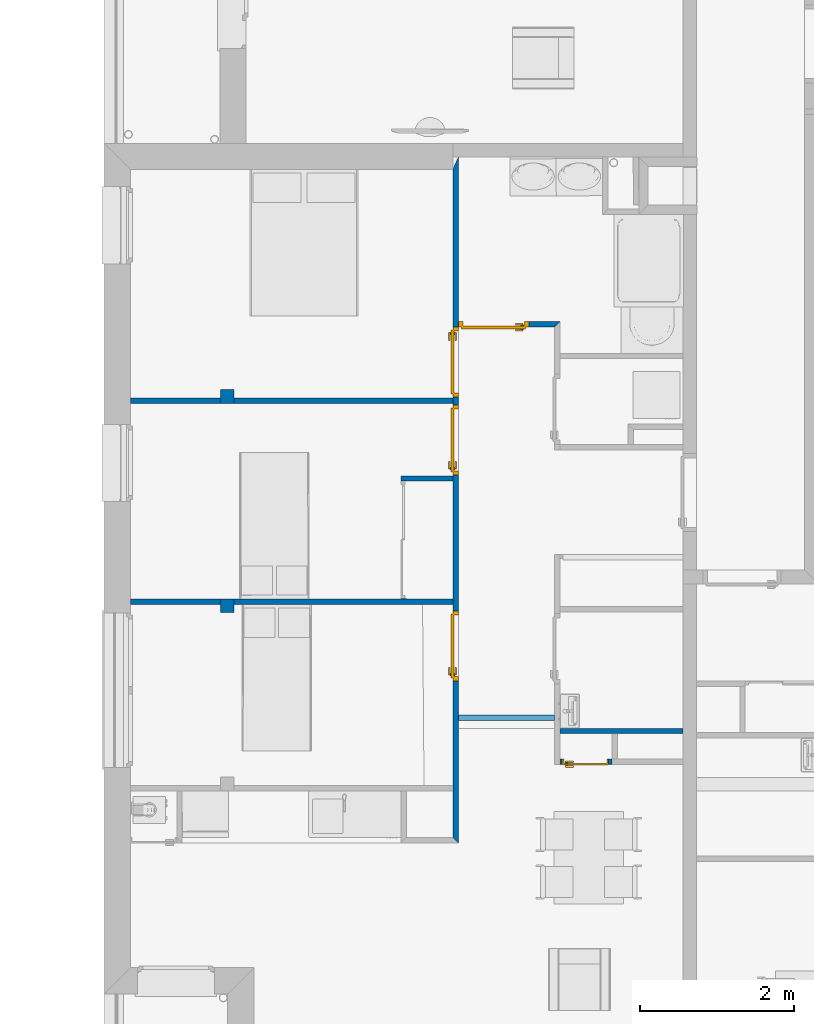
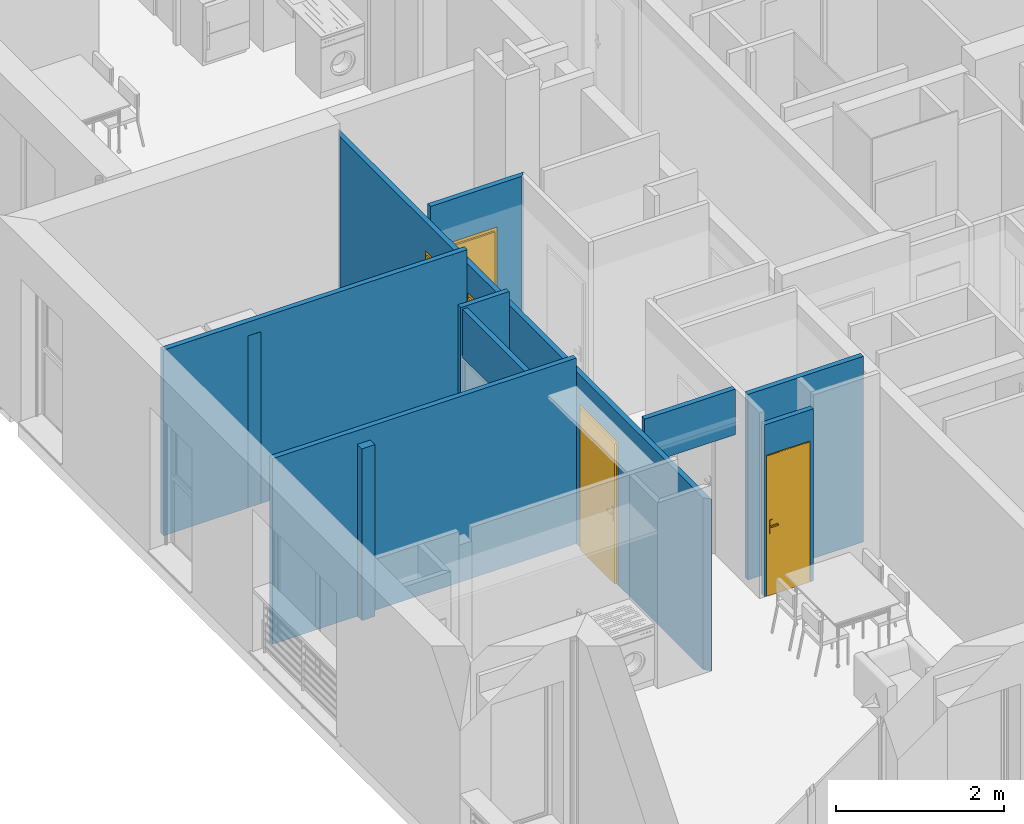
# One storey, part 30 of 171: 11 walls, 5 doors, 7 openings.
"""IFC2X3 building model written with IfcOpenShell, lengths in millimetres."""

import ifcopenshell
import ifcopenshell.guid

model = None  # the IFC model being written
_history = None  # IfcOwnerHistory: only IFC2X3 demands one
_inside = {}  # id of a spatial element -> (the spatial element, [elements in it])
_under = {}  # id of a project, library or spatial element -> (it, [spatial elements below it])
_declared = {}  # id of a project -> (the project, [libraries it declares])
_typed = {}  # id of a type object -> (the type object, [elements of that type])
_made_of = {}  # id of a material, layer set ... -> (it, [elements and type objects made of it])


def new_model(schema):
    """Start an empty IFC model of exactly this schema.

    Asked for "IFC4X3", IfcOpenShell would pick the latest addendum, in which some entities
    have other attributes; the version numbers below select the first issue.
    IFC2X3 requires an IfcOwnerHistory on every rooted entity: one is made here for all.
    """
    global model, _history
    if schema == "IFC4X3":
        model = ifcopenshell.file(schema_version=(4, 3, 0, 0))
    else:
        model = ifcopenshell.file(schema=schema)
    _inside.clear()
    _under.clear()
    _declared.clear()
    _typed.clear()
    _made_of.clear()
    _history = None
    if model.schema == "IFC2X3":
        org = make("IfcOrganization", Name="unknown")
        user = make(
            "IfcPersonAndOrganization",
            ThePerson=make("IfcPerson", FamilyName="unknown"),
            TheOrganization=org,
        )
        app = make(
            "IfcApplication",
            ApplicationDeveloper=org,
            Version="unknown",
            ApplicationFullName="unknown",
            ApplicationIdentifier="unknown",
        )
        _history = make(
            "IfcOwnerHistory",
            OwningUser=user,
            OwningApplication=app,
            ChangeAction="ADDED",
            CreationDate=0,
        )
    return model


def make(cls, **values):
    """One entity of the class cls with the attributes given. An attribute that is None is left unset."""
    return model.create_entity(
        cls, **{name: value for name, value in values.items() if value is not None}
    )


def entity(cls, *values):
    """Any entity or typed value of the class cls, its attributes in the order of the schema. None: left unset."""
    e = model.create_entity(cls)
    for i, value in enumerate(values):
        if value is not None:
            e[i] = value
    return e


def rooted(cls, **values):
    """An entity with a GlobalId (a new one), such as an element, a storey or a relation."""
    return make(cls, GlobalId=ifcopenshell.guid.new(), OwnerHistory=_history, **values)


def si_unit(unit_type, name, prefix=None):
    """IfcSIUnit, for example si_unit("LENGTHUNIT", "METRE", prefix="MILLI")."""
    return make("IfcSIUnit", UnitType=unit_type, Prefix=prefix, Name=name)


def converted_unit(unit_type, name, factor, base, dimensions=None, offset=None):
    """IfcConversionBasedUnit, such as the inch: factor (a typed value) times the base unit."""
    return make(
        "IfcConversionBasedUnit"
        if offset is None
        else "IfcConversionBasedUnitWithOffset",
        ConversionOffset=offset,
        Dimensions=None
        if dimensions is None
        else entity("IfcDimensionalExponents", *dimensions),
        UnitType=unit_type,
        Name=name,
        ConversionFactor=make(
            "IfcMeasureWithUnit", ValueComponent=factor, UnitComponent=base
        ),
    )


def derived_unit(unit_type, elements):
    """IfcDerivedUnit: a product of units, each with its exponent."""
    return make(
        "IfcDerivedUnit",
        Elements=[
            make("IfcDerivedUnitElement", Unit=unit, Exponent=power)
            for unit, power in elements
        ],
        UnitType=unit_type,
    )


def money_unit(currency):
    """IfcMonetaryUnit."""
    return make("IfcMonetaryUnit", Currency=currency)


def assignment(units):
    """IfcUnitAssignment: the units of a project."""
    return None if units is None else make("IfcUnitAssignment", Units=units)


def point(xyz):
    """IfcCartesianPoint."""
    return None if xyz is None else make("IfcCartesianPoint", Coordinates=xyz)


def direction(xyz):
    """IfcDirection."""
    return None if xyz is None else make("IfcDirection", DirectionRatios=xyz)


def frame(location, z_axis=None, x_axis=None):
    """IfcAxis2Placement3D, a coordinate frame: its origin and axes. An axis left out is left unset."""
    return make(
        "IfcAxis2Placement3D",
        Location=point(location),
        Axis=direction(z_axis),
        RefDirection=direction(x_axis),
    )


def frame_2d(location, x_axis=None):
    """IfcAxis2Placement2D, a coordinate frame in the plane: its origin and x axis."""
    return make(
        "IfcAxis2Placement2D", Location=point(location), RefDirection=direction(x_axis)
    )


def origin_with_axes():
    """The frame at (0, 0, 0) with the z axis (0, 0, 1) and the x axis (1, 0, 0) written out."""
    return frame((0.0, 0.0, 0.0), z_axis=(0.0, 0.0, 1.0), x_axis=(1.0, 0.0, 0.0))


def origin_2d_with_axis():
    """The frame at (0, 0) in the plane with the x axis (1, 0) written out."""
    return frame_2d((0.0, 0.0), x_axis=(1.0, 0.0))


def place(relative_to, where):
    """IfcLocalPlacement: puts the frame where relative to a parent placement (None: the world)."""
    return make(
        "IfcLocalPlacement", PlacementRelTo=relative_to, RelativePlacement=where
    )


def context(
    kind, dimensions, precision=None, world=None, true_north=None, identifier=None
):
    """IfcGeometricRepresentationContext, for example the 3D "Model" context."""
    return make(
        "IfcGeometricRepresentationContext",
        ContextIdentifier=identifier,
        ContextType=kind,
        CoordinateSpaceDimension=dimensions,
        Precision=precision,
        WorldCoordinateSystem=world,
        TrueNorth=true_north,
    )


def subcontext(parent, identifier, kind, view, scale=None):
    """IfcGeometricRepresentationSubContext, for example "Body" below "Model"."""
    return make(
        "IfcGeometricRepresentationSubContext",
        ContextIdentifier=identifier,
        ContextType=kind,
        ParentContext=parent,
        TargetScale=scale,
        TargetView=view,
    )


def project(units=None, contexts=None):
    """IfcProject with its units and contexts."""
    return rooted(
        "IfcProject",
        Name="project",
        RepresentationContexts=contexts,
        UnitsInContext=assignment(units),
    )


def spatial(cls, under=None, at=None, **own):
    """A site, building, storey or space (cls), placed at a placement, below another one or the project."""
    s = rooted(cls, ObjectPlacement=at, **own)
    if under is not None:
        _under.setdefault(under.id(), (under, []))[1].append(s)
    return s


def polyline(points):
    """IfcPolyline through the points."""
    return make("IfcPolyline", Points=[point(p) for p in points])


def profile(cls, at=None, kind="AREA", **sizes):
    """A parametric profile (cls). Its sizes go by their IFC names, for example OverallWidth=200.0."""
    return make(cls, ProfileType=kind, Position=at, **sizes)


def rectangle(**sizes):
    """IfcRectangleProfileDef."""
    return profile("IfcRectangleProfileDef", **sizes)


def outline(outer, holes=None, kind="AREA"):
    """IfcArbitraryClosedProfileDef: a profile drawn as a closed curve; with holes, ...WithVoids."""
    if holes is None:
        return make("IfcArbitraryClosedProfileDef", ProfileType=kind, OuterCurve=outer)
    return make(
        "IfcArbitraryProfileDefWithVoids",
        ProfileType=kind,
        OuterCurve=outer,
        InnerCurves=holes,
    )


def extrude(swept, where, along, depth):
    """IfcExtrudedAreaSolid: the profile swept, set in the frame where, extruded along a direction by depth."""
    return make(
        "IfcExtrudedAreaSolid",
        SweptArea=swept,
        Position=where,
        ExtrudedDirection=direction(along),
        Depth=depth,
    )


def faces_of(points, faces, orient=None, outer=None):
    """IfcFace entities. A face is a list of loops; a loop is a list of indices into points, from 0.

    orient and outer hold one flag for each loop. By default every Orientation is true, the
    first loop of a face is its IfcFaceOuterBound and the others are IfcFaceBound.
    """
    made = []
    for i, loops in enumerate(faces):
        bounds = []
        for j, loop in enumerate(loops):
            is_outer = j == 0 if outer is None else outer[i][j]
            bounds.append(
                make(
                    "IfcFaceOuterBound" if is_outer else "IfcFaceBound",
                    Bound=make("IfcPolyLoop", Polygon=[points[k] for k in loop]),
                    Orientation=True if orient is None else orient[i][j],
                )
            )
        made.append(make("IfcFace", Bounds=bounds))
    return made


def faceted_brep(points, faces, orient=None, outer=None, voids=None):
    """IfcFacetedBrep: a solid bounded by flat faces; with voids (closed shells), ...WithVoids."""
    shared = [point(p) for p in points]
    hull = make("IfcClosedShell", CfsFaces=faces_of(shared, faces, orient, outer))
    if voids is None:
        return make("IfcFacetedBrep", Outer=hull)
    return make(
        "IfcFacetedBrepWithVoids",
        Outer=hull,
        Voids=[
            make(cls, CfsFaces=faces_of(shared, fs, o, b)) for cls, fs, o, b in voids
        ],
    )


def shape(context_of_items, identifier, shape_type, items):
    """IfcShapeRepresentation: the items that make up one representation, for example the "Body"."""
    return make(
        "IfcShapeRepresentation",
        ContextOfItems=context_of_items,
        RepresentationIdentifier=identifier,
        RepresentationType=shape_type,
        Items=items,
    )


def source(mapping_origin, context_of_items, identifier, shape_type, items):
    """IfcRepresentationMap: a shape defined once, which mapped items show again and again."""
    return make(
        "IfcRepresentationMap",
        MappingOrigin=mapping_origin,
        MappedRepresentation=shape(context_of_items, identifier, shape_type, items),
    )


def transform(
    local_origin,
    x_axis=None,
    y_axis=None,
    z_axis=None,
    scale=None,
    scale2=None,
    scale3=None,
    uniform=True,
):
    """IfcCartesianTransformationOperator3D, or its non-uniform kind. x_axis, y_axis, z_axis: its Axis1, 2, 3."""
    if uniform:
        return make(
            "IfcCartesianTransformationOperator3D",
            Axis1=direction(x_axis),
            Axis2=direction(y_axis),
            LocalOrigin=point(local_origin),
            Scale=scale,
            Axis3=direction(z_axis),
        )
    return make(
        "IfcCartesianTransformationOperator3DnonUniform",
        Axis1=direction(x_axis),
        Axis2=direction(y_axis),
        LocalOrigin=point(local_origin),
        Scale=scale,
        Axis3=direction(z_axis),
        Scale2=scale2,
        Scale3=scale3,
    )


def mapped(mapping_source, mapping_target):
    """IfcMappedItem: shows the shape of a source again, moved by a transform."""
    return make(
        "IfcMappedItem", MappingSource=mapping_source, MappingTarget=mapping_target
    )


def material(Name=None, Category=None):
    """IfcMaterial."""
    return make("IfcMaterial", Name=Name, Category=Category)


def layer(
    of_material, thickness, ventilated=None, Name=None, Category=None, Priority=None
):
    """IfcMaterialLayer: one layer of a wall or slab, of a material (None: an air gap)."""
    return make(
        "IfcMaterialLayer",
        Material=of_material,
        LayerThickness=thickness,
        IsVentilated=ventilated,
        Name=Name,
        Category=Category,
        Priority=Priority,
    )


def layer_set(layers, Name=None):
    """IfcMaterialLayerSet."""
    return make("IfcMaterialLayerSet", MaterialLayers=layers, LayerSetName=Name)


def layer_usage(for_layer_set, set_direction, sense, offset, extent=None):
    """IfcMaterialLayerSetUsage: how a layer set lies in its element."""
    return make(
        "IfcMaterialLayerSetUsage",
        ForLayerSet=for_layer_set,
        LayerSetDirection=set_direction,
        DirectionSense=sense,
        OffsetFromReferenceLine=offset,
        ReferenceExtent=extent,
    )


def made_of(thing, what):
    """Note that an element or type object is made of a material, layer set ...; save() writes the relation."""
    if what is not None:
        _made_of.setdefault(what.id(), (what, []))[1].append(thing)
    return thing


def type_object(cls, material=None, **own):
    """A type object (cls), such as IfcWallType, which elements share."""
    return made_of(rooted(cls, **own), material)


def element(
    cls,
    number,
    at=None,
    inside=None,
    cuts=None,
    type_object=None,
    material=None,
    context=None,
    identifier="Body",
    shape_type=None,
    held_by="IfcProductDefinitionShape",
    body=None,
    shapes=None,
    **own,
):
    """One element of the class cls, such as IfcWall. Its Tag is "e" and its number.

    at: its placement. inside: the storey or other place that contains it. cuts: it is an
    opening in that element (IfcRelVoidsElement). A single representation is given by context,
    identifier, shape_type and body (its items); several are given by shapes. held_by: the class
    of the entity that holds the representations. save() writes the other relations.
    """
    e = rooted(cls, Tag="e%d" % number, ObjectPlacement=at, **own)
    if body is not None:
        shapes = [shape(context, identifier, shape_type, body)]
    if shapes is not None:
        e.Representation = make(held_by, Representations=shapes)
    if inside is not None:
        _inside.setdefault(inside.id(), (inside, []))[1].append(e)
    if cuts is not None:
        rooted(
            "IfcRelVoidsElement", RelatingBuildingElement=cuts, RelatedOpeningElement=e
        )
    if type_object is not None:
        _typed.setdefault(type_object.id(), (type_object, []))[1].append(e)
    return made_of(e, material)


def fill(opening, filler):
    """IfcRelFillsElement: the door or window that sits in an opening."""
    return rooted(
        "IfcRelFillsElement",
        RelatingOpeningElement=opening,
        RelatedBuildingElement=filler,
    )


def aggregate(whole, parts):
    """IfcRelAggregates: a whole, such as a stair, and the parts it consists of."""
    return rooted("IfcRelAggregates", RelatingObject=whole, RelatedObjects=parts)


def save(model, path):
    """Write the relations noted so far, then the file.

    IfcRelAggregates (storeys below a building ...), IfcRelContainedInSpatialStructure (elements
    in a storey), IfcRelDefinesByType, IfcRelAssociatesMaterial and IfcRelDeclares: one each for
    every whole, place, type object, material and project.
    """
    for whole, parts in _under.values():
        aggregate(whole, parts)
    for where, things in _inside.values():
        rooted(
            "IfcRelContainedInSpatialStructure",
            RelatedElements=things,
            RelatingStructure=where,
        )
    for kind, things in _typed.values():
        rooted("IfcRelDefinesByType", RelatedObjects=things, RelatingType=kind)
    for what, things in _made_of.values():
        rooted("IfcRelAssociatesMaterial", RelatedObjects=things, RelatingMaterial=what)
    for by, libraries in _declared.values():
        rooted("IfcRelDeclares", RelatingContext=by, RelatedDefinitions=libraries)
    model.write(path)


model = new_model("IFC2X3")

# Units and contexts
model_context = context("Model", 3, precision=0.01, world=origin_with_axes(), true_north=direction((0.0, 1.0)))
body_context = subcontext(model_context, "Body", "Model", "MODEL_VIEW")
ifc_project = project(units=[si_unit("LENGTHUNIT", "METRE", prefix="MILLI"), si_unit("AREAUNIT", "SQUARE_METRE"), si_unit("VOLUMEUNIT", "CUBIC_METRE"), converted_unit("PLANEANGLEUNIT", "DEGREE", entity("IfcPlaneAngleMeasure", 0.0174532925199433), si_unit("PLANEANGLEUNIT", "RADIAN"), dimensions=[0, 0, 0, 0, 0, 0, 0]), money_unit("USD"), converted_unit("TIMEUNIT", "Year", entity("IfcTimeMeasure", 31557600.0), si_unit("TIMEUNIT", "SECOND"), dimensions=[0, 0, 1, 0, 0, 0, 0]), si_unit("MASSUNIT", "GRAM", prefix="KILO"), si_unit("THERMODYNAMICTEMPERATUREUNIT", "DEGREE_CELSIUS"), si_unit("LUMINOUSINTENSITYUNIT", "LUMEN"), si_unit("ENERGYUNIT", "JOULE", prefix="MEGA"), derived_unit("THERMALCONDUCTANCEUNIT", [(si_unit("POWERUNIT", "WATT"), 1), (si_unit("LENGTHUNIT", "METRE"), -1), (si_unit("THERMODYNAMICTEMPERATUREUNIT", "KELVIN"), -1)]), derived_unit("SPECIFICHEATCAPACITYUNIT", [(si_unit("ENERGYUNIT", "JOULE"), 1), (si_unit("MASSUNIT", "GRAM", prefix="KILO"), -1), (si_unit("THERMODYNAMICTEMPERATUREUNIT", "KELVIN"), -1)]), derived_unit("MASSDENSITYUNIT", [(si_unit("MASSUNIT", "GRAM", prefix="KILO"), 1), (si_unit("VOLUMEUNIT", "CUBIC_METRE"), -1)])], contexts=[model_context])

# Site, building, storey
site_placement = place(None, origin_with_axes())
site = spatial("IfcSite", under=ifc_project, at=site_placement, Name="Site", CompositionType="ELEMENT")
building_placement = place(site_placement, origin_with_axes())
building = spatial("IfcBuilding", under=site, at=building_placement, Name="Bâtiment", CompositionType="ELEMENT")
storey_placement = place(building_placement, frame((0.0, 0.0, 3000.0), z_axis=(0.0, 0.0, 1.0), x_axis=(1.0, 0.0, 0.0)))
storey = spatial("IfcBuildingStorey", under=building, at=storey_placement, Name="rdc", CompositionType="ELEMENT", Elevation=3000.0)

# Wall
ifc_material_1 = material(Name="Hachure solide 268963992")
ifc_layer_1 = layer(ifc_material_1, 70.0, ventilated="UNKNOWN")
ifc_layer_set_1 = layer_set([ifc_layer_1], Name="Cloison 70 0826278243")
ifc_layer_usage_1 = layer_usage(ifc_layer_set_1, "AXIS2", "NEGATIVE", 70.0)
wall_type_1 = type_object("IfcWallType", Name="Cloison 70 0826278243 70", PredefinedType="NOTDEFINED")
wall_1_placement = place(storey_placement, frame((2224312.347712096, -651598.383431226, 0.0), z_axis=(0.0, 0.0, 1.0), x_axis=(-1.0, 0.0, 0.0)))
element("IfcWallStandardCase", 1, at=wall_1_placement, inside=storey, type_object=wall_type_1, material=ifc_layer_usage_1, Name="Mur-149", context=body_context, shape_type="SweptSolid", body=[
    extrude(outline(polyline([(179.9992271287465, 0.0), (1769.996590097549, 0.0), (1769.996590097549, 69.99999999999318), (179.999566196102, 69.99999999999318), (179.9992271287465, 0.0)])), origin_with_axes(), (0.0, 0.0, 1.0), 2700.0),
])

# Wall, opening
ifc_layer_usage_2 = layer_usage(ifc_layer_set_1, "AXIS2", "NEGATIVE", 70.0)
wall_2_placement = place(storey_placement, frame((2220482.351156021, -648435.5587383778, 0.0), z_axis=(0.0, 0.0, 1.0), x_axis=(-1.073144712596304e-07, -0.9999999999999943, 0.0)))
wall_2 = element("IfcWallStandardCase", 2, at=wall_2_placement, inside=storey, type_object=wall_type_1, material=ifc_layer_usage_2, Name="Mur-149", context=body_context, shape_type="SweptSolid", body=[
    extrude(outline(polyline([(0.0, 0.0), (1485.227886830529, 0.0), (1485.227879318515, 70.00000000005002), (0.0, 70.00000000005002), (0.0, 0.0)])), origin_with_axes(), (0.0, 0.0, 1.0), 2700.0),
])
opening_1_placement = place(wall_2_placement, frame((719.9835981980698, 2.273736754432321e-10, 0.0), z_axis=(0.0, 0.0, 1.0), x_axis=(1.0, 0.0, 0.0)))
element("IfcOpeningElement", 3, at=opening_1_placement, cuts=wall_2, Name="Por-321", context=body_context, shape_type="SweptSolid", body=[
    extrude(rectangle(XDim=1519.967196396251, YDim=2000.0, at=origin_2d_with_axis()), frame((0.0, 0.0, 1000.0), z_axis=(0.0, 1.0, 0.0), x_axis=(1.0, 0.0, 0.0)), (0.0, 0.0, -1.0), 70.0),
    extrude(rectangle(XDim=1519.967196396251, YDim=2000.0, at=origin_2d_with_axis()), frame((0.0, 0.0, 1000.0), z_axis=(0.0, -1.0, 0.0), x_axis=(1.0, 0.0, 0.0)), (0.0, 0.0, -1.0), 70.0),
])

# Walls
ifc_layer_usage_3 = layer_usage(ifc_layer_set_1, "AXIS2", "NEGATIVE", 70.0)
wall_3_placement = place(storey_placement, frame((2221152.351167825, -647320.7866252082, 0.0), z_axis=(0.0, 0.0, 1.0), x_axis=(-1.0, 0.0, 0.0)))
element("IfcWallStandardCase", 4, at=wall_3_placement, inside=storey, type_object=wall_type_1, material=ifc_layer_usage_3, Name="Mur-149", context=body_context, shape_type="SweptSolid", body=[
    extrude(outline(polyline([(0.0, 0.0), (4178.117824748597, 0.0), (4178.117824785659, 69.99999999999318), (0.0, 69.99999999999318), (0.0, 0.0)])), origin_with_axes(), (0.0, 0.0, 1.0), 2700.0),
])
ifc_layer_usage_4 = layer_usage(ifc_layer_set_1, "AXIS2", "NEGATIVE", 70.0)
wall_4_placement = place(storey_placement, frame((2221152.351167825, -648325.5587458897, 0.0), z_axis=(0.0, 0.0, 1.0), x_axis=(-1.0, 0.0, 0.0)))
element("IfcWallStandardCase", 5, at=wall_4_placement, inside=storey, type_object=wall_type_1, material=ifc_layer_usage_4, Name="Mur-149", context=body_context, shape_type="SweptSolid", body=[
    extrude(outline(polyline([(0.0, 0.0), (669.9999999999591, 0.0), (669.9999999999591, 69.99999999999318), (0.0, 69.99999999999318), (0.0, 0.0)])), origin_with_axes(), (0.0, 0.0, 1.0), 2700.0),
])

# Wall, opening, door
ifc_layer_usage_5 = layer_usage(ifc_layer_set_1, "AXIS2", "NEGATIVE", 70.0)
wall_5_placement = place(storey_placement, frame((2222472.351167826, -646327.0248240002, 0.0), z_axis=(0.0, 0.0, 1.0), x_axis=(-1.0, 0.0, 0.0)))
wall_5 = element("IfcWallStandardCase", 6, at=wall_5_placement, inside=storey, type_object=wall_type_1, material=ifc_layer_usage_5, Name="Mur-149", context=body_context, shape_type="SweptSolid", body=[
    extrude(outline(polyline([(-70.00000000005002, 0.0), (1250.0, 0.0), (1250.0, 69.99999999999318), (-1.02037347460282e-05, 69.99999999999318), (-70.00000000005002, 0.0)])), origin_with_axes(), (0.0, 0.0, 1.0), 2700.0),
])
opening_2_placement = place(wall_5_placement, frame((790.6535849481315, 0.0, 0.0), z_axis=(0.0, 0.0, 1.0), x_axis=(1.0, 0.0, 0.0)))
opening_2 = element("IfcOpeningElement", 7, at=opening_2_placement, cuts=wall_5, Name="Por-280", context=body_context, shape_type="SweptSolid", body=[
    extrude(rectangle(XDim=909.9999999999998, YDim=2080.0, at=origin_2d_with_axis()), frame((0.0, -69.99999999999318, 1040.0), z_axis=(0.0, 1.0, 0.0), x_axis=(1.0, 0.0, 0.0)), (0.0, 0.0, 1.0), 140.0),
])
door_style = type_object("IfcDoorStyle", Name="Porte_1v", ConstructionType="NOTDEFINED", OperationType="NOTDEFINED", ParameterTakesPrecedence=False, Sizeable=False)
shared_shape_1 = source(origin_with_axes(), body_context, "Body", "Brep", [
    faceted_brep([(454.9999999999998, 0.0, 0.0), (414.9999999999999, 0.0, 0.0), (414.9999999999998, 0.0, 2040.0), (-414.9999999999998, 0.0, 2040.0), (-414.9999999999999, 0.0, 0.0), (-454.9999999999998, 0.0, 0.0), (-454.9999999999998, 0.0, 2080.0), (454.9999999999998, 0.0, 2080.0), (454.9999999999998, -69.99999999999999, 0.0), (399.9999999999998, -69.99999999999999, 0.0), (399.9999999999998, -15.0, 0.0), (414.9999999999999, -15.0, 0.0), (414.9999999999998, -15.0, 2040.0), (-414.9999999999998, -15.0, 2040.0), (-414.9999999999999, -15.0, 0.0), (-399.9999999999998, -15.0, 0.0), (-399.9999999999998, -69.99999999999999, 0.0), (-454.9999999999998, -69.99999999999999, 0.0), (-454.9999999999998, -69.99999999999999, 2080.0), (454.9999999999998, -69.99999999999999, 2080.0), (-399.9999999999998, -69.99999999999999, 2025.0), (399.9999999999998, -69.99999999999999, 2025.0), (399.9999999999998, -15.0, 2025.0), (-399.9999999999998, -15.0, 2025.0)], [[[0, 1, 2, 3, 4, 5, 6, 7]], [[0, 8, 9, 10, 11, 1]], [[1, 11, 12, 2]], [[2, 12, 13, 3]], [[3, 13, 14, 4]], [[5, 4, 14, 15, 16, 17]], [[18, 6, 5, 17]], [[19, 7, 6, 18]], [[8, 0, 7, 19]], [[9, 8, 19, 18, 17, 16, 20, 21]], [[10, 9, 21, 22]], [[11, 10, 22, 23, 15, 14, 13, 12]], [[23, 20, 16, 15]], [[22, 21, 20, 23]]]),
    faceted_brep([(-349.9999999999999, -15.0, 900.0), (-389.9999999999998, -15.0, 900.0), (-389.9999999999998, -15.0, 1100.0), (-349.9999999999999, -15.0, 1100.0), (-349.9999999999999, -24.99999999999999, 900.0), (-389.9999999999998, -24.99999999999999, 900.0), (-389.9999999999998, -24.99999999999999, 1100.0), (-349.9999999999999, -24.99999999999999, 1100.0)], [[[0, 1, 2, 3]], [[1, 0, 4, 5]], [[2, 1, 5, 6]], [[3, 2, 6, 7]], [[0, 3, 7, 4]], [[5, 4, 7, 6]]]),
    faceted_brep([(-279.9999999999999, -24.99999999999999, 1000.0), (-379.9999999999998, -24.99999999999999, 1000.0), (-379.9999999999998, -24.99999999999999, 1020.0), (-279.9999999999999, -24.99999999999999, 1020.0), (-279.9999999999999, -44.99999999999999, 1000.0), (-379.9999999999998, -44.99999999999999, 1000.0), (-379.9999999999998, -44.99999999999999, 1020.0), (-279.9999999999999, -44.99999999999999, 1020.0)], [[[0, 1, 2, 3]], [[1, 0, 4, 5]], [[2, 1, 5, 6]], [[3, 2, 6, 7]], [[0, 3, 7, 4]], [[5, 4, 7, 6]]]),
    faceted_brep([(-349.9999999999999, 34.99999999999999, 900.0), (-389.9999999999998, 34.99999999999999, 900.0), (-389.9999999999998, 34.99999999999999, 1100.0), (-349.9999999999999, 34.99999999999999, 1100.0), (-349.9999999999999, 24.99999999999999, 900.0), (-389.9999999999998, 24.99999999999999, 900.0), (-389.9999999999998, 24.99999999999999, 1100.0), (-349.9999999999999, 24.99999999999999, 1100.0)], [[[0, 1, 2, 3]], [[1, 0, 4, 5]], [[2, 1, 5, 6]], [[3, 2, 6, 7]], [[0, 3, 7, 4]], [[5, 4, 7, 6]]]),
    faceted_brep([(-279.9999999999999, 54.99999999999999, 1000.0), (-379.9999999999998, 54.99999999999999, 1000.0), (-379.9999999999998, 54.99999999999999, 1020.0), (-279.9999999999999, 54.99999999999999, 1020.0), (-279.9999999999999, 34.99999999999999, 1000.0), (-379.9999999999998, 34.99999999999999, 1000.0), (-379.9999999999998, 34.99999999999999, 1020.0), (-279.9999999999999, 34.99999999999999, 1020.0)], [[[0, 1, 2, 3]], [[1, 0, 4, 5]], [[2, 1, 5, 6]], [[3, 2, 6, 7]], [[0, 3, 7, 4]], [[5, 4, 7, 6]]]),
    faceted_brep([(-414.9999999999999, 24.99999999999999, 0.0), (414.9999999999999, 24.99999999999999, 0.0), (414.9999999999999, -15.0, 0.0), (-414.9999999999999, -15.0, 0.0), (-414.9999999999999, 24.99999999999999, 2040.0), (414.9999999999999, 24.99999999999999, 2040.0), (414.9999999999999, -15.0, 2040.0), (-414.9999999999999, -15.0, 2040.0)], [[[0, 1, 2, 3]], [[0, 4, 5, 1]], [[1, 5, 6, 2]], [[3, 2, 6, 7]], [[4, 0, 3, 7]], [[5, 4, 7, 6]]]),
])
door_1_placement = place(opening_2_placement, frame((-415.000000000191, 0.0, 0.0), z_axis=(0.0, 0.0, 1.0), x_axis=(1.0, 0.0, 0.0)))
door_1 = element("IfcDoor", 8, at=door_1_placement, inside=storey, type_object=door_style, Name="Por-280", OverallHeight=2040.0, OverallWidth=830.0, context=body_context, shape_type="MappedRepresentation", body=[
    mapped(shared_shape_1, transform((414.9999999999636, 69.99999999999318, 0.0))),
])
fill(opening_2, door_1)

# Wall
ifc_layer_usage_6 = layer_usage(ifc_layer_set_1, "AXIS2", "NEGATIVE", 70.0)
wall_6_placement = place(storey_placement, frame((2221152.351167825, -649920.7866252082, 0.0), z_axis=(0.0, 0.0, 1.0), x_axis=(-1.0, 0.0, 0.0)))
element("IfcWallStandardCase", 9, at=wall_6_placement, inside=storey, type_object=wall_type_1, material=ifc_layer_usage_6, Name="Mur-149", context=body_context, shape_type="SweptSolid", body=[
    extrude(outline(polyline([(0.0, 0.0), (4178.117826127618, 0.0), (4178.11782616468, 69.99999999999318), (0.0, 69.99999999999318), (0.0, 0.0)])), origin_with_axes(), (0.0, 0.0, 1.0), 2700.0),
])

# Wall, opening
ifc_layer_usage_7 = layer_usage(ifc_layer_set_1, "AXIS2", "NEGATIVE", 70.0)
wall_7_placement = place(storey_placement, frame((2222472.351121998, -651428.3834443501, 0.0), z_axis=(0.0, 0.0, 1.0), x_axis=(-1.0, 9.942334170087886e-09, 0.0)))
wall_7 = element("IfcWallStandardCase", 10, at=wall_7_placement, inside=storey, type_object=wall_type_1, material=ifc_layer_usage_7, Name="Mur-149", context=body_context, shape_type="SweptSolid", body=[
    extrude(outline(polyline([(0.0, 0.0), (1249.999954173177, 0.0), (1249.999953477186, 69.99999999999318), (-6.959908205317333e-07, 69.99999999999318), (0.0, 0.0)])), origin_with_axes(), (0.0, 0.0, 1.0), 2700.0),
])
opening_3_placement = place(wall_7_placement, frame((624.9999778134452, 0.0, 0.0), z_axis=(0.0, 0.0, 1.0), x_axis=(1.0, 0.0, 0.0)))
element("IfcOpeningElement", 11, at=opening_3_placement, cuts=wall_7, Name="Por-282", context=body_context, shape_type="SweptSolid", body=[
    extrude(rectangle(XDim=1250.000026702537, YDim=2040.0, at=origin_2d_with_axis()), frame((-6.959908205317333e-07, 70.0000062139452, 1020.0), z_axis=(9.942334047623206e-09, -1.0, 0.0), x_axis=(1.0, 9.942334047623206e-09, 0.0)), (0.0, 0.0, -1.0), 70.0),
    extrude(rectangle(XDim=1250.000026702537, YDim=2040.0, at=origin_2d_with_axis()), frame((-6.959908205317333e-07, 70.0000062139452, 1020.0), z_axis=(-9.942334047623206e-09, 1.0, 0.0), x_axis=(1.0, 9.942334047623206e-09, 0.0)), (0.0, 0.0, -1.0), 70.0),
])

# Wall, opening, door
ifc_layer_usage_8 = layer_usage(ifc_layer_set_1, "AXIS2", "NEGATIVE", 70.0)
wall_8_placement = place(storey_placement, frame((2223215.674325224, -651998.3834312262, 0.0), z_axis=(0.0, 0.0, 1.0), x_axis=(-1.0, 0.0, 0.0)))
wall_8 = element("IfcWallStandardCase", 12, at=wall_8_placement, inside=storey, type_object=wall_type_1, material=ifc_layer_usage_8, Name="Mur-149", context=body_context, shape_type="SweptSolid", body=[
    extrude(outline(polyline([(0.0, 0.0), (673.3232032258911, 0.0), (673.3232032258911, 69.99999999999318), (0.0, 69.99999999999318), (0.0, 0.0)])), origin_with_axes(), (0.0, 0.0, 1.0), 2500.0),
])
opening_4_placement = place(wall_8_placement, frame((345.8196076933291, 0.0, 0.0), z_axis=(0.0, 0.0, 1.0), x_axis=(1.0, 0.0, 0.0)))
opening_4 = element("IfcOpeningElement", 13, at=opening_4_placement, cuts=wall_8, Name="Por-274", context=body_context, shape_type="SweptSolid", body=[
    extrude(rectangle(XDim=599.9999999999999, YDim=2050.0, at=origin_2d_with_axis()), frame((0.0, -69.99999999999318, 1025.0), z_axis=(0.0, -1.0, 0.0), x_axis=(-1.0, 0.0, 0.0)), (0.0, 0.0, -1.0), 140.0),
])
shared_shape_2 = source(origin_with_axes(), body_context, "Body", "Brep", [
    faceted_brep([(-300.0, 0.0, 0.0), (-300.0, 0.0, 2050.0), (300.0, 0.0, 2050.0), (300.0, 0.0, 0.0), (290.0, 0.0, 0.0), (290.0, 0.0, 2040.0), (-290.0, 0.0, 2040.0), (-290.0, 0.0, 0.0), (-300.0, -70.0, 0.0), (-300.0, -70.0, 2050.0), (300.0, -70.0, 2050.0), (300.0, -70.0, 0.0), (279.9999999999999, -70.0, 0.0), (279.9999999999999, -15.0, 0.0), (290.0, -15.0, 0.0), (290.0, -15.0, 2040.0), (-290.0, -15.0, 2040.0), (-290.0, -15.0, 0.0), (-279.9999999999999, -15.0, 0.0), (-279.9999999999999, -70.0, 0.0), (-279.9999999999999, -70.0, 2030.0), (279.9999999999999, -70.0, 2030.0), (279.9999999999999, -15.0, 2030.0), (-279.9999999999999, -15.0, 2030.0)], [[[0, 1, 2, 3, 4, 5, 6, 7]], [[8, 9, 1, 0]], [[9, 10, 2, 1]], [[10, 11, 3, 2]], [[3, 11, 12, 13, 14, 4]], [[5, 4, 14, 15]], [[6, 5, 15, 16]], [[7, 6, 16, 17]], [[0, 7, 17, 18, 19, 8]], [[19, 20, 21, 12, 11, 10, 9, 8]], [[22, 13, 12, 21]], [[17, 16, 15, 14, 13, 22, 23, 18]], [[18, 23, 20, 19]], [[23, 22, 21, 20]]]),
    faceted_brep([(224.9999999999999, -15.0, 900.0), (224.9999999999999, -15.0, 1100.0), (264.9999999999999, -15.0, 1100.0), (264.9999999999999, -15.0, 900.0), (224.9999999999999, -25.0, 900.0), (224.9999999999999, -25.0, 1100.0), (264.9999999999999, -25.0, 1100.0), (264.9999999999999, -25.0, 900.0)], [[[0, 1, 2, 3]], [[0, 4, 5, 1]], [[1, 5, 6, 2]], [[2, 6, 7, 3]], [[3, 7, 4, 0]], [[7, 6, 5, 4]]]),
    faceted_brep([(154.9999999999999, -25.0, 1000.0), (154.9999999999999, -25.0, 1020.0), (254.9999999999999, -25.0, 1020.0), (254.9999999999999, -25.0, 1000.0), (154.9999999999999, -45.0, 1000.0), (154.9999999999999, -45.0, 1020.0), (254.9999999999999, -45.0, 1020.0), (254.9999999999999, -45.0, 1000.0)], [[[0, 1, 2, 3]], [[0, 4, 5, 1]], [[1, 5, 6, 2]], [[2, 6, 7, 3]], [[3, 7, 4, 0]], [[7, 6, 5, 4]]]),
    faceted_brep([(224.9999999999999, 15.0, 900.0), (224.9999999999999, 15.0, 1100.0), (264.9999999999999, 15.0, 1100.0), (264.9999999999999, 15.0, 900.0), (224.9999999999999, 5.000000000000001, 900.0), (224.9999999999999, 5.000000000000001, 1100.0), (264.9999999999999, 5.000000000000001, 1100.0), (264.9999999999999, 5.000000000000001, 900.0)], [[[0, 1, 2, 3]], [[0, 4, 5, 1]], [[1, 5, 6, 2]], [[2, 6, 7, 3]], [[3, 7, 4, 0]], [[7, 6, 5, 4]]]),
    faceted_brep([(154.9999999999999, 35.0, 1000.0), (154.9999999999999, 35.0, 1020.0), (254.9999999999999, 35.0, 1020.0), (254.9999999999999, 35.0, 1000.0), (154.9999999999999, 15.0, 1000.0), (154.9999999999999, 15.0, 1020.0), (254.9999999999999, 15.0, 1020.0), (254.9999999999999, 15.0, 1000.0)], [[[0, 1, 2, 3]], [[0, 4, 5, 1]], [[1, 5, 6, 2]], [[2, 6, 7, 3]], [[3, 7, 4, 0]], [[7, 6, 5, 4]]]),
    faceted_brep([(290.0, 5.000000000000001, 0.0), (290.0, -15.0, 0.0), (-290.0, -15.0, 0.0), (-290.0, 5.000000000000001, 0.0), (290.0, 5.000000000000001, 2040.0), (290.0, -15.0, 2040.0), (-290.0, -15.0, 2040.0), (-290.0, 5.000000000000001, 2040.0)], [[[0, 1, 2, 3]], [[4, 5, 1, 0]], [[1, 5, 6, 2]], [[3, 2, 6, 7]], [[0, 3, 7, 4]], [[7, 6, 5, 4]]]),
])
door_2_placement = place(opening_4_placement, frame((-290.000000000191, 0.0, 0.0), z_axis=(0.0, 0.0, 1.0), x_axis=(1.0, 0.0, 0.0)))
door_2 = element("IfcDoor", 14, at=door_2_placement, inside=storey, type_object=door_style, Name="Por-274", OverallHeight=2040.0, OverallWidth=580.0, context=body_context, shape_type="MappedRepresentation", body=[
    mapped(shared_shape_2, transform((289.9999999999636, 69.99999999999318, 0.0))),
])
fill(opening_4, door_2)

# Wall, openings, doors
ifc_layer_usage_9 = layer_usage(ifc_layer_set_1, "AXIS2", "NEGATIVE", 70.0)
wall_9_placement = place(storey_placement, frame((2221152.351167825, -644016.3764661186, 0.0), z_axis=(0.0, 0.0, 1.0), x_axis=(0.0, -1.0, 0.0)))
wall_9 = element("IfcWallStandardCase", 15, at=wall_9_placement, inside=storey, type_object=wall_type_1, material=ifc_layer_usage_9, Name="Mur-149", context=body_context, shape_type="SweptSolid", body=[
    extrude(outline(polyline([(339.9999999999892, 0.0), (8996.58341993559, 0.0), (9066.583419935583, 70.00000000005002), (179.9999986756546, 70.00000000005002), (339.9999999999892, 0.0)])), origin_with_axes(), (0.0, 0.0, 1.0), 2500.0),
])
opening_5_placement = place(wall_9_placement, frame((3844.526334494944, 1.13686837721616e-10, 0.0), z_axis=(0.0, 0.0, 1.0), x_axis=(1.0, 0.0, 0.0)))
opening_5 = element("IfcOpeningElement", 16, at=opening_5_placement, cuts=wall_9, Name="Por-279", context=body_context, shape_type="SweptSolid", body=[
    extrude(rectangle(XDim=910.0, YDim=2080.0, at=origin_2d_with_axis()), frame((0.0, 70.00000000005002, 1040.0), z_axis=(0.0, -1.0, 0.0), x_axis=(-1.0, 0.0, 0.0)), (0.0, 0.0, 1.0), 140.0),
])
opening_6_placement = place(wall_9_placement, frame((6513.65574901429, 1.13686837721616e-10, 0.0), z_axis=(0.0, 0.0, 1.0), x_axis=(1.0, 0.0, 0.0)))
opening_6 = element("IfcOpeningElement", 17, at=opening_6_placement, cuts=wall_9, Name="Por-281", context=body_context, shape_type="SweptSolid", body=[
    extrude(rectangle(XDim=910.0, YDim=2080.0, at=origin_2d_with_axis()), frame((0.0, 70.00000000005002, 1040.0), z_axis=(0.0, -1.0, 0.0), x_axis=(-1.0, 0.0, 0.0)), (0.0, 0.0, 1.0), 140.0),
])
opening_7_placement = place(wall_9_placement, frame((2835.648357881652, 1.13686837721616e-10, 0.0), z_axis=(0.0, 0.0, 1.0), x_axis=(1.0, 0.0, 0.0)))
opening_7 = element("IfcOpeningElement", 18, at=opening_7_placement, cuts=wall_9, Name="Por-278", context=body_context, shape_type="SweptSolid", body=[
    extrude(rectangle(XDim=910.0, YDim=2080.0, at=origin_2d_with_axis()), frame((0.0, 70.00000000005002, 1040.0), z_axis=(0.0, 1.0, 0.0), x_axis=(1.0, 0.0, 0.0)), (0.0, 0.0, -1.0), 140.0),
])
shared_shape_3 = source(origin_with_axes(), body_context, "Body", "Brep", [
    faceted_brep([(455.0, 0.0, 0.0), (415.0000000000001, 0.0, 0.0), (415.0000000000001, 0.0, 2040.0), (-415.0000000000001, 0.0, 2040.0), (-415.0000000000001, 0.0, 0.0), (-455.0, 0.0, 0.0), (-455.0, 0.0, 2080.0), (455.0, 0.0, 2080.0), (455.0, -70.0, 0.0), (400.0, -70.0, 0.0), (400.0, -15.0, 0.0), (415.0000000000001, -15.0, 0.0), (415.0000000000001, -15.0, 2040.0), (-415.0000000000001, -15.0, 2040.0), (-415.0000000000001, -15.0, 0.0), (-400.0, -15.0, 0.0), (-400.0, -70.0, 0.0), (-455.0, -70.0, 0.0), (-455.0, -70.0, 2080.0), (455.0, -70.0, 2080.0), (-400.0, -70.0, 2025.0), (400.0, -70.0, 2025.0), (400.0, -15.0, 2025.0), (-400.0, -15.0, 2025.0)], [[[0, 1, 2, 3, 4, 5, 6, 7]], [[0, 8, 9, 10, 11, 1]], [[1, 11, 12, 2]], [[2, 12, 13, 3]], [[3, 13, 14, 4]], [[5, 4, 14, 15, 16, 17]], [[18, 6, 5, 17]], [[19, 7, 6, 18]], [[8, 0, 7, 19]], [[9, 8, 19, 18, 17, 16, 20, 21]], [[10, 9, 21, 22]], [[11, 10, 22, 23, 15, 14, 13, 12]], [[23, 20, 16, 15]], [[22, 21, 20, 23]]]),
    faceted_brep([(-350.0000000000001, -15.0, 900.0), (-390.0, -15.0, 900.0), (-390.0, -15.0, 1100.0), (-350.0000000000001, -15.0, 1100.0), (-350.0000000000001, -25.0, 900.0), (-390.0, -25.0, 900.0), (-390.0, -25.0, 1100.0), (-350.0000000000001, -25.0, 1100.0)], [[[0, 1, 2, 3]], [[1, 0, 4, 5]], [[2, 1, 5, 6]], [[3, 2, 6, 7]], [[0, 3, 7, 4]], [[5, 4, 7, 6]]]),
    faceted_brep([(-280.0, -25.0, 1000.0), (-380.0, -25.0, 1000.0), (-380.0, -25.0, 1020.0), (-280.0, -25.0, 1020.0), (-280.0, -45.0, 1000.0), (-380.0, -45.0, 1000.0), (-380.0, -45.0, 1020.0), (-280.0, -45.0, 1020.0)], [[[0, 1, 2, 3]], [[1, 0, 4, 5]], [[2, 1, 5, 6]], [[3, 2, 6, 7]], [[0, 3, 7, 4]], [[5, 4, 7, 6]]]),
    faceted_brep([(-350.0000000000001, 35.0, 900.0), (-390.0, 35.0, 900.0), (-390.0, 35.0, 1100.0), (-350.0000000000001, 35.0, 1100.0), (-350.0000000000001, 25.0, 900.0), (-390.0, 25.0, 900.0), (-390.0, 25.0, 1100.0), (-350.0000000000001, 25.0, 1100.0)], [[[0, 1, 2, 3]], [[1, 0, 4, 5]], [[2, 1, 5, 6]], [[3, 2, 6, 7]], [[0, 3, 7, 4]], [[5, 4, 7, 6]]]),
    faceted_brep([(-280.0, 55.00000000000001, 1000.0), (-380.0, 55.00000000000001, 1000.0), (-380.0, 55.00000000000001, 1020.0), (-280.0, 55.00000000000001, 1020.0), (-280.0, 35.0, 1000.0), (-380.0, 35.0, 1000.0), (-380.0, 35.0, 1020.0), (-280.0, 35.0, 1020.0)], [[[0, 1, 2, 3]], [[1, 0, 4, 5]], [[2, 1, 5, 6]], [[3, 2, 6, 7]], [[0, 3, 7, 4]], [[5, 4, 7, 6]]]),
    faceted_brep([(-415.0000000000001, 25.0, 0.0), (415.0000000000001, 25.0, 0.0), (415.0000000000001, -15.0, 0.0), (-415.0000000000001, -15.0, 0.0), (-415.0000000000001, 25.0, 2040.0), (415.0000000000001, 25.0, 2040.0), (415.0000000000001, -15.0, 2040.0), (-415.0000000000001, -15.0, 2040.0)], [[[0, 1, 2, 3]], [[0, 4, 5, 1]], [[1, 5, 6, 2]], [[3, 2, 6, 7]], [[4, 0, 3, 7]], [[5, 4, 7, 6]]]),
])
door_3_placement = place(opening_5_placement, frame((414.999999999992, 1.13686837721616e-10, 0.0), z_axis=(0.0, 0.0, 1.0), x_axis=(-1.0, 0.0, 0.0)))
door_3 = element("IfcDoor", 19, at=door_3_placement, inside=storey, type_object=door_style, Name="Por-279", OverallHeight=2040.0, OverallWidth=830.0, context=body_context, shape_type="MappedRepresentation", body=[
    mapped(shared_shape_3, transform((415.0000000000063, 0.0, 0.0))),
])
fill(opening_5, door_3)
door_4_placement = place(opening_6_placement, frame((414.9999999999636, 1.13686837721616e-10, 0.0), z_axis=(0.0, 0.0, 1.0), x_axis=(-1.0, 0.0, 0.0)))
door_4 = element("IfcDoor", 20, at=door_4_placement, inside=storey, type_object=door_style, Name="Por-281", OverallHeight=2040.0, OverallWidth=830.0, context=body_context, shape_type="MappedRepresentation", body=[
    mapped(shared_shape_3, transform((415.0000000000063, 0.0, 0.0))),
])
fill(opening_6, door_4)
shared_shape_4 = source(origin_with_axes(), body_context, "Body", "Brep", [
    faceted_brep([(-454.9999999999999, 0.0, 0.0), (-454.9999999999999, 0.0, 2080.0), (454.9999999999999, 0.0, 2080.0), (454.9999999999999, 0.0, 0.0), (414.9999999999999, 0.0, 0.0), (414.9999999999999, 0.0, 2040.0), (-414.9999999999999, 0.0, 2040.0), (-414.9999999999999, 0.0, 0.0), (-454.9999999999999, -69.99999999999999, 0.0), (-454.9999999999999, -69.99999999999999, 2080.0), (454.9999999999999, -69.99999999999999, 2080.0), (454.9999999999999, -69.99999999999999, 0.0), (399.9999999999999, -69.99999999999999, 0.0), (399.9999999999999, -15.0, 0.0), (414.9999999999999, -15.0, 0.0), (414.9999999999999, -15.0, 2040.0), (-414.9999999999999, -14.99999999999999, 2040.0), (-414.9999999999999, -14.99999999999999, 0.0), (-399.9999999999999, -14.99999999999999, 0.0), (-399.9999999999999, -69.99999999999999, 0.0), (-399.9999999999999, -69.99999999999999, 2025.0), (399.9999999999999, -69.99999999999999, 2025.0), (399.9999999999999, -15.0, 2025.0), (-399.9999999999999, -14.99999999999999, 2025.0)], [[[0, 1, 2, 3, 4, 5, 6, 7]], [[8, 9, 1, 0]], [[9, 10, 2, 1]], [[10, 11, 3, 2]], [[3, 11, 12, 13, 14, 4]], [[5, 4, 14, 15]], [[6, 5, 15, 16]], [[7, 6, 16, 17]], [[0, 7, 17, 18, 19, 8]], [[19, 20, 21, 12, 11, 10, 9, 8]], [[22, 13, 12, 21]], [[17, 16, 15, 14, 13, 22, 23, 18]], [[18, 23, 20, 19]], [[23, 22, 21, 20]]]),
    faceted_brep([(350.0, -15.0, 900.0), (350.0, -15.0, 1100.0), (389.9999999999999, -15.0, 1100.0), (389.9999999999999, -15.0, 900.0), (350.0, -25.0, 900.0), (350.0, -25.0, 1100.0), (389.9999999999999, -25.0, 1100.0), (389.9999999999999, -25.0, 900.0)], [[[0, 1, 2, 3]], [[0, 4, 5, 1]], [[1, 5, 6, 2]], [[2, 6, 7, 3]], [[3, 7, 4, 0]], [[7, 6, 5, 4]]]),
    faceted_brep([(279.9999999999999, -25.0, 1000.0), (279.9999999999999, -25.0, 1020.0), (379.9999999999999, -25.0, 1020.0), (379.9999999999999, -25.0, 1000.0), (279.9999999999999, -45.0, 1000.0), (279.9999999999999, -45.0, 1020.0), (379.9999999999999, -45.0, 1020.0), (379.9999999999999, -45.0, 1000.0)], [[[0, 1, 2, 3]], [[0, 4, 5, 1]], [[1, 5, 6, 2]], [[2, 6, 7, 3]], [[3, 7, 4, 0]], [[7, 6, 5, 4]]]),
    faceted_brep([(350.0, 34.99999999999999, 900.0), (350.0, 34.99999999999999, 1100.0), (389.9999999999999, 34.99999999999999, 1100.0), (389.9999999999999, 34.99999999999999, 900.0), (350.0, 24.99999999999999, 900.0), (350.0, 24.99999999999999, 1100.0), (389.9999999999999, 24.99999999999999, 1100.0), (389.9999999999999, 24.99999999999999, 900.0)], [[[0, 1, 2, 3]], [[0, 4, 5, 1]], [[1, 5, 6, 2]], [[2, 6, 7, 3]], [[3, 7, 4, 0]], [[7, 6, 5, 4]]]),
    faceted_brep([(279.9999999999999, 54.99999999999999, 1000.0), (279.9999999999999, 54.99999999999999, 1020.0), (379.9999999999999, 54.99999999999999, 1020.0), (379.9999999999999, 54.99999999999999, 1000.0), (279.9999999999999, 34.99999999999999, 1000.0), (279.9999999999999, 34.99999999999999, 1020.0), (379.9999999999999, 34.99999999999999, 1020.0), (379.9999999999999, 34.99999999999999, 1000.0)], [[[0, 1, 2, 3]], [[0, 4, 5, 1]], [[1, 5, 6, 2]], [[2, 6, 7, 3]], [[3, 7, 4, 0]], [[7, 6, 5, 4]]]),
    faceted_brep([(414.9999999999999, 24.99999999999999, 0.0), (414.9999999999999, -15.0, 0.0), (-414.9999999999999, -14.99999999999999, 0.0), (-414.9999999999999, 25.0, 0.0), (414.9999999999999, 24.99999999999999, 2040.0), (414.9999999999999, -15.0, 2040.0), (-414.9999999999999, -14.99999999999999, 2040.0), (-414.9999999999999, 25.0, 2040.0)], [[[0, 1, 2, 3]], [[4, 5, 1, 0]], [[1, 5, 6, 2]], [[3, 2, 6, 7]], [[0, 3, 7, 4]], [[7, 6, 5, 4]]]),
])
door_5_placement = place(opening_7_placement, frame((415.0000000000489, 1.13686837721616e-10, 0.0), z_axis=(0.0, 0.0, 1.0), x_axis=(-1.0, 0.0, 0.0)))
door_5 = element("IfcDoor", 21, at=door_5_placement, inside=storey, type_object=door_style, Name="Por-278", OverallHeight=2040.0, OverallWidth=830.0, context=body_context, shape_type="MappedRepresentation", body=[
    mapped(shared_shape_4, transform((415.0000000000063, 0.0, 0.0))),
])
fill(opening_7, door_5)

# Walls
ifc_material_2 = material(Name="Parpaing 312445824")
ifc_layer_2 = layer(ifc_material_2, 180.0, ventilated="UNKNOWN")
ifc_layer_set_2 = layer_set([ifc_layer_2], Name="Beton  18 0836643197")
ifc_layer_usage_10 = layer_usage(ifc_layer_set_2, "AXIS2", "NEGATIVE", 0.0)
wall_type_2 = type_object("IfcWallType", Name="Beton  18 0836643197 180", PredefinedType="NOTDEFINED")
wall_10_placement = place(storey_placement, frame((2218318.023555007, -650100.7866252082, 0.0), z_axis=(0.0, 0.0, 1.0), x_axis=(-1.0, 0.0, 0.0)))
element("IfcWallStandardCase", 22, at=wall_10_placement, inside=storey, type_object=wall_type_2, material=ifc_layer_usage_10, Name="Mur-143", context=body_context, shape_type="SweptSolid", body=[
    extrude(outline(polyline([(0.0, -180.0000000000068), (179.8043260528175, -180.0000000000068), (179.8043260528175, 0.0), (0.0, 0.0), (0.0, -180.0000000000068)])), origin_with_axes(), (0.0, 0.0, 1.0), 2500.0),
])
ifc_layer_usage_11 = layer_usage(ifc_layer_set_2, "AXIS2", "NEGATIVE", 0.0)
wall_11_placement = place(storey_placement, frame((2218317.969447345, -647390.7866252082, 0.0), z_axis=(0.0, 0.0, 1.0), x_axis=(-1.0, 0.0, 0.0)))
element("IfcWallStandardCase", 23, at=wall_11_placement, inside=storey, type_object=wall_type_2, material=ifc_layer_usage_11, Name="Mur-143", context=body_context, shape_type="SweptSolid", body=[
    extrude(outline(polyline([(0.0, -180.0000000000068), (179.8043260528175, -180.0000000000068), (179.8043260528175, 0.0), (0.0, 0.0), (0.0, -180.0000000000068)])), origin_with_axes(), (0.0, 0.0, 1.0), 2500.0),
])

save(model, "model.ifc")
